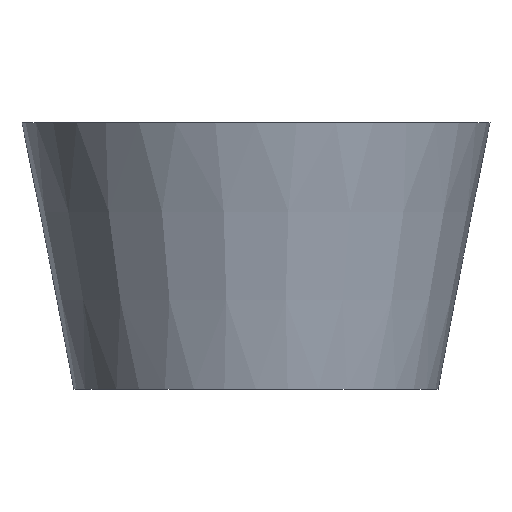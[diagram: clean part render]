
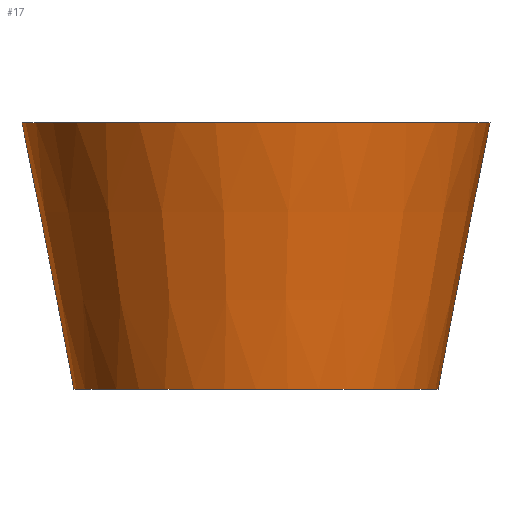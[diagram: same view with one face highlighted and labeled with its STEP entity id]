
A CAD part, left-side view. The second image highlights one B-rep face of the part: STEP entity #17.
In plain terms, the highlighted conical face has half-angle 11.014 degrees and reference radius 10.2 mm.
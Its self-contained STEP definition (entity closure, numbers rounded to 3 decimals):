
#17 = ADVANCED_FACE('',(#18),#45,.T.);
#18 = FACE_BOUND('',#19,.T.);
#19 = EDGE_LOOP('',(#20,#29,#37,#44));
#20 = ORIENTED_EDGE('',*,*,#21,.F.);
#21 = EDGE_CURVE('',#22,#22,#24,.T.);
#22 = VERTEX_POINT('',#23);
#23 = CARTESIAN_POINT('',(28.1,15.,23.5));
#24 = CIRCLE('',#25,13.1);
#25 = AXIS2_PLACEMENT_3D('',#26,#27,#28);
#26 = CARTESIAN_POINT('',(15.,15.,23.5));
#27 = DIRECTION('',(0.,0.,1.));
#28 = DIRECTION('',(1.,0.,0.));
#29 = ORIENTED_EDGE('',*,*,#30,.F.);
#30 = EDGE_CURVE('',#31,#22,#33,.T.);
#31 = VERTEX_POINT('',#32);
#32 = CARTESIAN_POINT('',(25.2,15.,8.6));
#33 = LINE('',#34,#35);
#34 = CARTESIAN_POINT('',(25.2,15.,8.6));
#35 = VECTOR('',#36,1.);
#36 = DIRECTION('',(0.191,0.,0.982));
#37 = ORIENTED_EDGE('',*,*,#38,.T.);
#38 = EDGE_CURVE('',#31,#31,#39,.T.);
#39 = CIRCLE('',#40,10.2);
#40 = AXIS2_PLACEMENT_3D('',#41,#42,#43);
#41 = CARTESIAN_POINT('',(15.,15.,8.6));
#42 = DIRECTION('',(0.,0.,1.));
#43 = DIRECTION('',(1.,0.,0.));
#44 = ORIENTED_EDGE('',*,*,#30,.T.);
#45 = CONICAL_SURFACE('',#46,10.2,0.192);
#46 = AXIS2_PLACEMENT_3D('',#47,#48,#49);
#47 = CARTESIAN_POINT('',(15.,15.,8.6));
#48 = DIRECTION('',(0.,0.,1.));
#49 = DIRECTION('',(1.,0.,0.));
